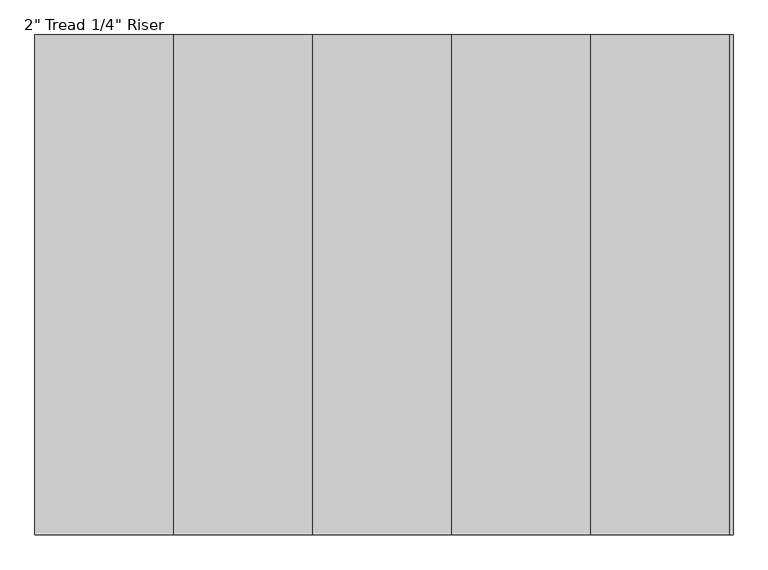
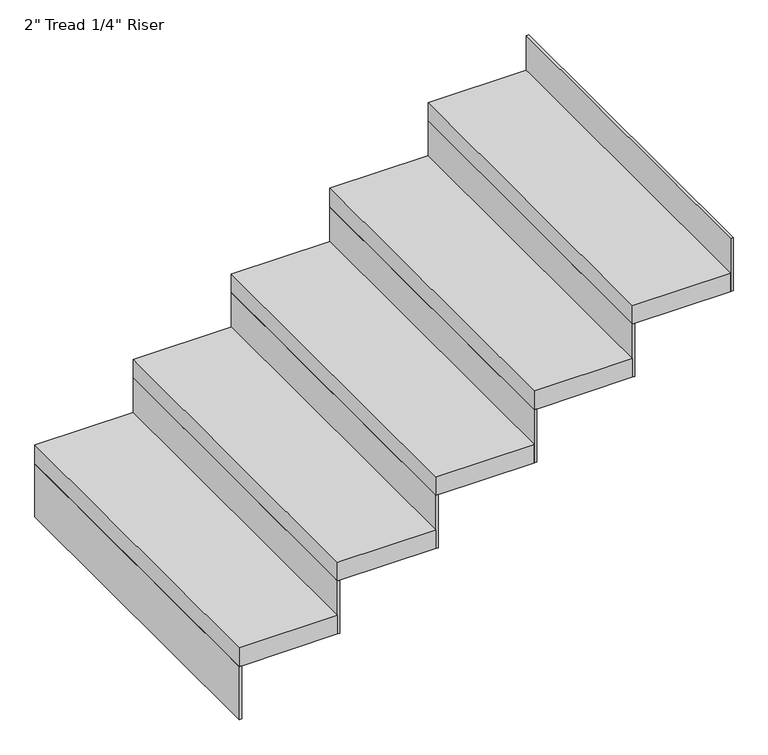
"""IFC4 building model written with IfcOpenShell, lengths in millimetres: stair flight geometry."""

import ifcopenshell
import ifcopenshell.guid

model = None  # the IFC model being written
_history = None  # IfcOwnerHistory: only IFC2X3 demands one
_inside = {}  # id of a spatial element -> (the spatial element, [elements in it])
_under = {}  # id of a project, library or spatial element -> (it, [spatial elements below it])
_declared = {}  # id of a project -> (the project, [libraries it declares])
_typed = {}  # id of a type object -> (the type object, [elements of that type])
_made_of = {}  # id of a material, layer set ... -> (it, [elements and type objects made of it])


def new_model(schema):
    """Start an empty IFC model of exactly this schema.

    Asked for "IFC4X3", IfcOpenShell would pick the latest addendum, in which some entities
    have other attributes; the version numbers below select the first issue.
    IFC2X3 requires an IfcOwnerHistory on every rooted entity: one is made here for all.
    """
    global model, _history
    if schema == "IFC4X3":
        model = ifcopenshell.file(schema_version=(4, 3, 0, 0))
    else:
        model = ifcopenshell.file(schema=schema)
    _inside.clear()
    _under.clear()
    _declared.clear()
    _typed.clear()
    _made_of.clear()
    _history = None
    if model.schema == "IFC2X3":
        org = make("IfcOrganization", Name="unknown")
        user = make(
            "IfcPersonAndOrganization",
            ThePerson=make("IfcPerson", FamilyName="unknown"),
            TheOrganization=org,
        )
        app = make(
            "IfcApplication",
            ApplicationDeveloper=org,
            Version="unknown",
            ApplicationFullName="unknown",
            ApplicationIdentifier="unknown",
        )
        _history = make(
            "IfcOwnerHistory",
            OwningUser=user,
            OwningApplication=app,
            ChangeAction="ADDED",
            CreationDate=0,
        )
    return model


def make(cls, **values):
    """One entity of the class cls with the attributes given. An attribute that is None is left unset."""
    return model.create_entity(
        cls, **{name: value for name, value in values.items() if value is not None}
    )


def rooted(cls, **values):
    """An entity with a GlobalId (a new one), such as an element, a storey or a relation."""
    return make(cls, GlobalId=ifcopenshell.guid.new(), OwnerHistory=_history, **values)


def si_unit(unit_type, name, prefix=None):
    """IfcSIUnit, for example si_unit("LENGTHUNIT", "METRE", prefix="MILLI")."""
    return make("IfcSIUnit", UnitType=unit_type, Prefix=prefix, Name=name)


def assignment(units):
    """IfcUnitAssignment: the units of a project."""
    return None if units is None else make("IfcUnitAssignment", Units=units)


def point(xyz):
    """IfcCartesianPoint."""
    return None if xyz is None else make("IfcCartesianPoint", Coordinates=xyz)


def direction(xyz):
    """IfcDirection."""
    return None if xyz is None else make("IfcDirection", DirectionRatios=xyz)


def frame(location, z_axis=None, x_axis=None):
    """IfcAxis2Placement3D, a coordinate frame: its origin and axes. An axis left out is left unset."""
    return make(
        "IfcAxis2Placement3D",
        Location=point(location),
        Axis=direction(z_axis),
        RefDirection=direction(x_axis),
    )


def origin():
    """The frame at (0, 0, 0) with its axes left unset."""
    return frame((0.0, 0.0, 0.0))


def place(relative_to, where):
    """IfcLocalPlacement: puts the frame where relative to a parent placement (None: the world)."""
    return make(
        "IfcLocalPlacement", PlacementRelTo=relative_to, RelativePlacement=where
    )


def context(
    kind, dimensions, precision=None, world=None, true_north=None, identifier=None
):
    """IfcGeometricRepresentationContext, for example the 3D "Model" context."""
    return make(
        "IfcGeometricRepresentationContext",
        ContextIdentifier=identifier,
        ContextType=kind,
        CoordinateSpaceDimension=dimensions,
        Precision=precision,
        WorldCoordinateSystem=world,
        TrueNorth=true_north,
    )


def project(units=None, contexts=None):
    """IfcProject with its units and contexts."""
    return rooted(
        "IfcProject",
        Name="project",
        RepresentationContexts=contexts,
        UnitsInContext=assignment(units),
    )


def spatial(cls, under=None, at=None, **own):
    """A site, building, storey or space (cls), placed at a placement, below another one or the project."""
    s = rooted(cls, ObjectPlacement=at, **own)
    if under is not None:
        _under.setdefault(under.id(), (under, []))[1].append(s)
    return s


def polyline(points):
    """IfcPolyline through the points."""
    return make("IfcPolyline", Points=[point(p) for p in points])


def outline(outer, holes=None, kind="AREA"):
    """IfcArbitraryClosedProfileDef: a profile drawn as a closed curve; with holes, ...WithVoids."""
    if holes is None:
        return make("IfcArbitraryClosedProfileDef", ProfileType=kind, OuterCurve=outer)
    return make(
        "IfcArbitraryProfileDefWithVoids",
        ProfileType=kind,
        OuterCurve=outer,
        InnerCurves=holes,
    )


def extrude(swept, where, along, depth):
    """IfcExtrudedAreaSolid: the profile swept, set in the frame where, extruded along a direction by depth."""
    return make(
        "IfcExtrudedAreaSolid",
        SweptArea=swept,
        Position=where,
        ExtrudedDirection=direction(along),
        Depth=depth,
    )


def shape(context_of_items, identifier, shape_type, items):
    """IfcShapeRepresentation: the items that make up one representation, for example the "Body"."""
    return make(
        "IfcShapeRepresentation",
        ContextOfItems=context_of_items,
        RepresentationIdentifier=identifier,
        RepresentationType=shape_type,
        Items=items,
    )


def source(mapping_origin, context_of_items, identifier, shape_type, items):
    """IfcRepresentationMap: a shape defined once, which mapped items show again and again."""
    return make(
        "IfcRepresentationMap",
        MappingOrigin=mapping_origin,
        MappedRepresentation=shape(context_of_items, identifier, shape_type, items),
    )


def transform(
    local_origin,
    x_axis=None,
    y_axis=None,
    z_axis=None,
    scale=None,
    scale2=None,
    scale3=None,
    uniform=True,
):
    """IfcCartesianTransformationOperator3D, or its non-uniform kind. x_axis, y_axis, z_axis: its Axis1, 2, 3."""
    if uniform:
        return make(
            "IfcCartesianTransformationOperator3D",
            Axis1=direction(x_axis),
            Axis2=direction(y_axis),
            LocalOrigin=point(local_origin),
            Scale=scale,
            Axis3=direction(z_axis),
        )
    return make(
        "IfcCartesianTransformationOperator3DnonUniform",
        Axis1=direction(x_axis),
        Axis2=direction(y_axis),
        LocalOrigin=point(local_origin),
        Scale=scale,
        Axis3=direction(z_axis),
        Scale2=scale2,
        Scale3=scale3,
    )


def mapped(mapping_source, mapping_target):
    """IfcMappedItem: shows the shape of a source again, moved by a transform."""
    return make(
        "IfcMappedItem", MappingSource=mapping_source, MappingTarget=mapping_target
    )


def made_of(thing, what):
    """Note that an element or type object is made of a material, layer set ...; save() writes the relation."""
    if what is not None:
        _made_of.setdefault(what.id(), (what, []))[1].append(thing)
    return thing


def element(
    cls,
    number,
    at=None,
    inside=None,
    cuts=None,
    type_object=None,
    material=None,
    context=None,
    identifier="Body",
    shape_type=None,
    held_by="IfcProductDefinitionShape",
    body=None,
    shapes=None,
    **own,
):
    """One element of the class cls, such as IfcWall. Its Tag is "e" and its number.

    at: its placement. inside: the storey or other place that contains it. cuts: it is an
    opening in that element (IfcRelVoidsElement). A single representation is given by context,
    identifier, shape_type and body (its items); several are given by shapes. held_by: the class
    of the entity that holds the representations. save() writes the other relations.
    """
    e = rooted(cls, Tag="e%d" % number, ObjectPlacement=at, **own)
    if body is not None:
        shapes = [shape(context, identifier, shape_type, body)]
    if shapes is not None:
        e.Representation = make(held_by, Representations=shapes)
    if inside is not None:
        _inside.setdefault(inside.id(), (inside, []))[1].append(e)
    if cuts is not None:
        rooted(
            "IfcRelVoidsElement", RelatingBuildingElement=cuts, RelatedOpeningElement=e
        )
    if type_object is not None:
        _typed.setdefault(type_object.id(), (type_object, []))[1].append(e)
    return made_of(e, material)


def aggregate(whole, parts):
    """IfcRelAggregates: a whole, such as a stair, and the parts it consists of."""
    return rooted("IfcRelAggregates", RelatingObject=whole, RelatedObjects=parts)


def save(model, path):
    """Write the relations noted so far, then the file.

    IfcRelAggregates (storeys below a building ...), IfcRelContainedInSpatialStructure (elements
    in a storey), IfcRelDefinesByType, IfcRelAssociatesMaterial and IfcRelDeclares: one each for
    every whole, place, type object, material and project.
    """
    for whole, parts in _under.values():
        aggregate(whole, parts)
    for where, things in _inside.values():
        rooted(
            "IfcRelContainedInSpatialStructure",
            RelatedElements=things,
            RelatingStructure=where,
        )
    for kind, things in _typed.values():
        rooted("IfcRelDefinesByType", RelatedObjects=things, RelatingType=kind)
    for what, things in _made_of.values():
        rooted("IfcRelAssociatesMaterial", RelatedObjects=things, RelatingMaterial=what)
    for by, libraries in _declared.values():
        rooted("IfcRelDeclares", RelatingContext=by, RelatedDefinitions=libraries)
    model.write(path)


def stair_flight_6248b28b(model_context):
    return source(origin(), model_context, "Body", "SweptSolid", [
        extrude(outline(polyline([(2425.7036861, 43330.9361774), (2419.3536861, 43330.9361774), (2419.3536861, 44245.3361774), (2425.7036861, 44245.3361774), (2425.7036861, 43330.9361774)])), frame((0.0, 0.0, 2126.3428571), z_axis=(0.0, 0.0, 1.0), x_axis=(1.0, 0.0, 0.0)), (0.0, 0.0, 1.0), 145.1428571),
        extrude(outline(polyline([(2673.3536861, 44245.3361774), (2673.3536861, 43330.9361774), (2419.3536861, 43330.9361774), (2419.3536861, 44245.3361774), (2673.3536861, 44245.3361774)])), frame((0.0, 0.0, 2271.4857143), z_axis=(0.0, 0.0, 1.0), x_axis=(1.0, 0.0, 0.0)), (0.0, 0.0, 1.0), 50.8),
        extrude(outline(polyline([(2679.7036861, 43330.9361774), (2673.3536861, 43330.9361774), (2673.3536861, 44245.3361774), (2679.7036861, 44245.3361774), (2679.7036861, 43330.9361774)])), frame((0.0, 0.0, 2271.4857143), z_axis=(0.0, 0.0, 1.0), x_axis=(1.0, 0.0, 0.0)), (0.0, 0.0, 1.0), 145.1428571),
        extrude(outline(polyline([(2927.3536861, 44245.3361774), (2927.3536861, 43330.9361774), (2673.3536861, 43330.9361774), (2673.3536861, 44245.3361774), (2927.3536861, 44245.3361774)])), frame((0.0, 0.0, 2416.6285714), z_axis=(0.0, 0.0, 1.0), x_axis=(1.0, 0.0, 0.0)), (0.0, 0.0, 1.0), 50.8),
        extrude(outline(polyline([(2933.7036861, 43330.9361774), (2927.3536861, 43330.9361774), (2927.3536861, 44245.3361774), (2933.7036861, 44245.3361774), (2933.7036861, 43330.9361774)])), frame((0.0, 0.0, 2416.6285714), z_axis=(0.0, 0.0, 1.0), x_axis=(1.0, 0.0, 0.0)), (0.0, 0.0, 1.0), 145.1428571),
        extrude(outline(polyline([(3181.3536861, 44245.3361774), (3181.3536861, 43330.9361774), (2927.3536861, 43330.9361774), (2927.3536861, 44245.3361774), (3181.3536861, 44245.3361774)])), frame((0.0, 0.0, 2561.7714286), z_axis=(0.0, 0.0, 1.0), x_axis=(1.0, 0.0, 0.0)), (0.0, 0.0, 1.0), 50.8),
        extrude(outline(polyline([(3187.7036861, 43330.9361774), (3181.3536861, 43330.9361774), (3181.3536861, 44245.3361774), (3187.7036861, 44245.3361774), (3187.7036861, 43330.9361774)])), frame((0.0, 0.0, 2561.7714286), z_axis=(0.0, 0.0, 1.0), x_axis=(1.0, 0.0, 0.0)), (0.0, 0.0, 1.0), 145.1428571),
        extrude(outline(polyline([(3435.3536861, 44245.3361774), (3435.3536861, 43330.9361774), (3181.3536861, 43330.9361774), (3181.3536861, 44245.3361774), (3435.3536861, 44245.3361774)])), frame((0.0, 0.0, 2706.9142857), z_axis=(0.0, 0.0, 1.0), x_axis=(1.0, 0.0, 0.0)), (0.0, 0.0, 1.0), 50.8),
        extrude(outline(polyline([(3441.7036861, 43330.9361774), (3435.3536861, 43330.9361774), (3435.3536861, 44245.3361774), (3441.7036861, 44245.3361774), (3441.7036861, 43330.9361774)])), frame((0.0, 0.0, 2706.9142857), z_axis=(0.0, 0.0, 1.0), x_axis=(1.0, 0.0, 0.0)), (0.0, 0.0, 1.0), 145.1428571),
        extrude(outline(polyline([(3695.7036861, 43330.9361774), (3689.3536861, 43330.9361774), (3689.3536861, 44245.3361774), (3695.7036861, 44245.3361774), (3695.7036861, 43330.9361774)])), frame((0.0, 0.0, 2852.0571429), z_axis=(0.0, 0.0, 1.0), x_axis=(1.0, 0.0, 0.0)), (0.0, 0.0, 1.0), 145.1428571),
        extrude(outline(polyline([(3689.3536861, 44245.3361774), (3689.3536861, 43330.9361774), (3435.3536861, 43330.9361774), (3435.3536861, 44245.3361774), (3689.3536861, 44245.3361774)])), frame((0.0, 0.0, 2852.0571429), z_axis=(0.0, 0.0, 1.0), x_axis=(1.0, 0.0, 0.0)), (0.0, 0.0, 1.0), 50.8),
    ])


if __name__ == "__main__":
    model = new_model("IFC4")
    model_context = context("Model", 3, world=origin())
    ifc_project = project(units=[si_unit("LENGTHUNIT", "METRE", prefix="MILLI")], contexts=[model_context])
    site = spatial("IfcSite", under=ifc_project)
    building = spatial("IfcBuilding", under=site)
    placement = place(None, origin())
    stair_flight_shape = stair_flight_6248b28b(model_context)
    element("IfcStairFlight", 1, ObjectType="2\" Tread 1/4\" Riser", at=placement, inside=building, context=model_context, shape_type="MappedRepresentation", body=[
        mapped(stair_flight_shape, transform((0.0, 0.0, 0.0), x_axis=(1.0, 0.0, 0.0), y_axis=(0.0, 1.0, 0.0), z_axis=(0.0, 0.0, 1.0))),
    ])
    save(model, "model.ifc")
